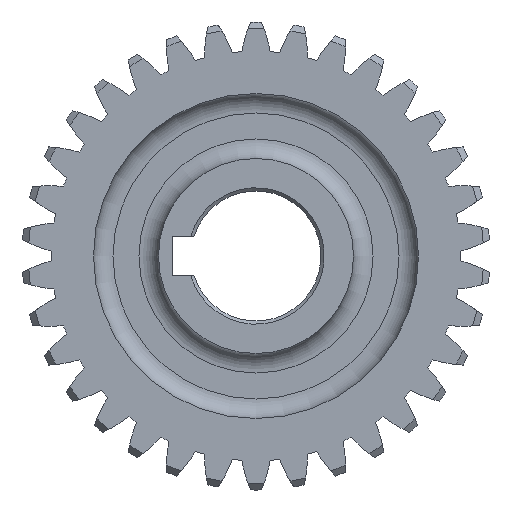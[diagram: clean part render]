
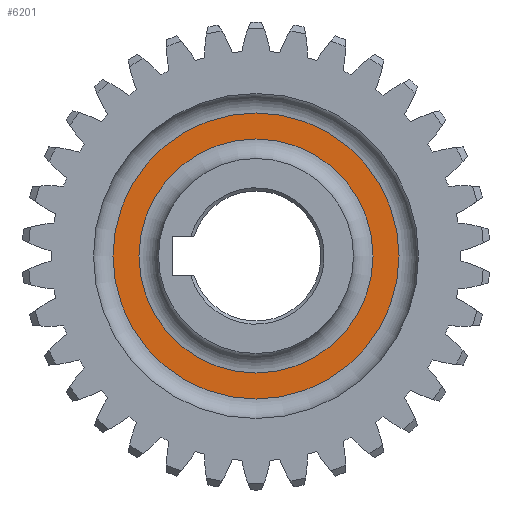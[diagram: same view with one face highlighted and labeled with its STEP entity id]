
A CAD part, left-side view. The second image highlights one B-rep face of the part: STEP entity #6201.
In plain terms, the highlighted planar face has unit normal (-1, 0, 0).
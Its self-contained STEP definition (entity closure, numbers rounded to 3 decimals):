
#480=FACE_BOUND('',#1342,.T.);
#959=PLANE('',#6748);
#976=FACE_OUTER_BOUND('',#1341,.T.);
#1341=EDGE_LOOP('',(#4218));
#1342=EDGE_LOOP('',(#4219));
#1876=CIRCLE('',#6746,18.);
#1878=CIRCLE('',#6749,22.);
#2463=VERTEX_POINT('',#9993);
#2465=VERTEX_POINT('',#9998);
#3164=EDGE_CURVE('',#2463,#2463,#1876,.T.);
#3166=EDGE_CURVE('',#2465,#2465,#1878,.T.);
#4218=ORIENTED_EDGE('',*,*,#3166,.F.);
#4219=ORIENTED_EDGE('',*,*,#3164,.F.);
#6201=ADVANCED_FACE('',(#976,#480),#959,.F.);
#6746=AXIS2_PLACEMENT_3D('',#9994,#7889,#7890);
#6748=AXIS2_PLACEMENT_3D('',#9997,#7893,#7894);
#6749=AXIS2_PLACEMENT_3D('',#9999,#7895,#7896);
#7889=DIRECTION('center_axis',(-1.,0.,0.));
#7890=DIRECTION('ref_axis',(0.,0.,-1.));
#7893=DIRECTION('center_axis',(1.,0.,0.));
#7894=DIRECTION('ref_axis',(0.,0.,-1.));
#7895=DIRECTION('center_axis',(1.,0.,0.));
#7896=DIRECTION('ref_axis',(0.,0.,-1.));
#9993=CARTESIAN_POINT('',(17.,0.,18.));
#9994=CARTESIAN_POINT('Origin',(17.,0.,0.));
#9997=CARTESIAN_POINT('Origin',(17.,0.,0.));
#9998=CARTESIAN_POINT('',(17.,0.,22.));
#9999=CARTESIAN_POINT('Origin',(17.,0.,0.));
